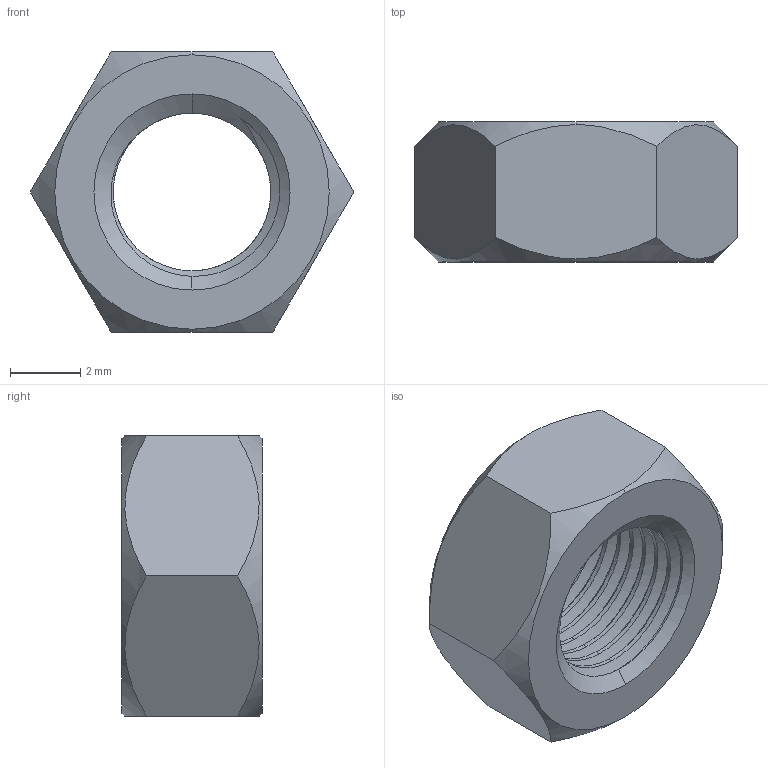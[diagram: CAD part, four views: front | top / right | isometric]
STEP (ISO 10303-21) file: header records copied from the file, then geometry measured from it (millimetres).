
FILE_DESCRIPTION (( 'STEP AP203' ), '1' );
FILE_NAME ('TANRM-304-M5x0.5.STEP', '2026-08-21T14:31:16', ( '' ), ( '' ), 'SwSTEP 2.0', 'SolidWorks 2020', '' );
FILE_SCHEMA (( 'CONFIG_CONTROL_DESIGN' ));
Length unit declared in the file: millimetre
Products named in the file (1): TANRM-304-M5x0.5
Bounding box: 9.24 x 4 x 8 mm (x, y, z)
Volume: 146.1 mm3; surface area: 261.4 mm2
Topology: 1 solids, 1 shells, 34 faces, 94 edges, 62 vertices
Faces by surface type: cylinder 15, cone 8, plane 8, bspline 3
Entity records: 2408 total; most frequent: CARTESIAN_POINT 1594, ORIENTED_EDGE 188, DIRECTION 116, EDGE_CURVE 94, VERTEX_POINT 62, AXIS2_PLACEMENT_3D 44, EDGE_LOOP 36, FACE_OUTER_BOUND 34
